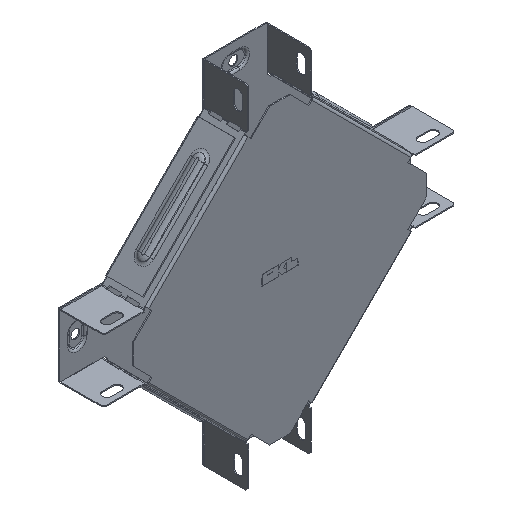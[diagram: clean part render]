
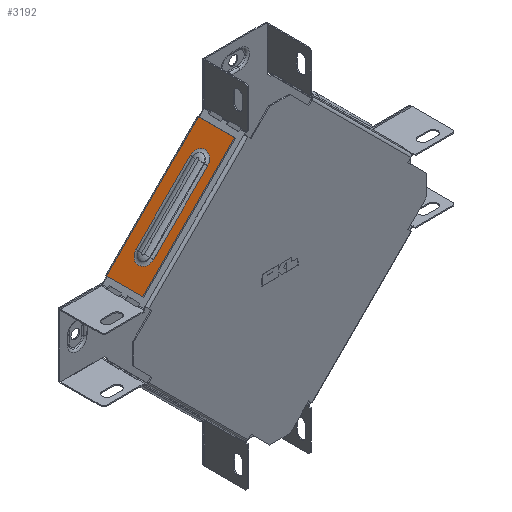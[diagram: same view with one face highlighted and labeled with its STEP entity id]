
A CAD part, isometric view. The second image highlights one B-rep face of the part: STEP entity #3192.
In plain terms, the highlighted planar face has unit normal (-0.707, 0, 0.707).
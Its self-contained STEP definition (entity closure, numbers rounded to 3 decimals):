
#496 = ORIENTED_EDGE ( 'NONE', *, *, #18158, .F. ) ;
#592 = DIRECTION ( 'NONE',  ( 0.707, 0., -0.707 ) ) ;
#917 = CARTESIAN_POINT ( 'NONE',  ( -29.667, 33.2, 101.51 ) ) ;
#1303 = ORIENTED_EDGE ( 'NONE', *, *, #19844, .T. ) ;
#1314 = CARTESIAN_POINT ( 'NONE',  ( -101.51, 5., 29.667 ) ) ;
#2027 = CARTESIAN_POINT ( 'NONE',  ( -44.375, 11.183, 86.802 ) ) ;
#3192 = ADVANCED_FACE ( 'NONE', ( #16011, #5654 ), #21611, .F. ) ;
#3672 = CARTESIAN_POINT ( 'NONE',  ( -44.375, 11.183, 86.802 ) ) ;
#3876 = CARTESIAN_POINT ( 'NONE',  ( -44.375, 25.017, 86.802 ) ) ;
#4049 = EDGE_LOOP ( 'NONE', ( #1303, #20644, #5790, #496 ) ) ;
#5048 = EDGE_CURVE ( 'NONE', #19356, #7307, #6885, .T. ) ;
#5231 = EDGE_CURVE ( 'NONE', #17566, #12940, #9934, .T. ) ;
#5412 = EDGE_CURVE ( 'NONE', #17996, #14526, #15245, .T. ) ;
#5654 = FACE_OUTER_BOUND ( 'NONE', #4049, .T. ) ;
#5790 = ORIENTED_EDGE ( 'NONE', *, *, #18222, .T. ) ;
#6408 = CARTESIAN_POINT ( 'NONE',  ( -101.51, 36.099, 29.667 ) ) ;
#6416 = LINE ( 'NONE', #22500, #10879 ) ;
#6600 = LINE ( 'NONE', #2027, #21124 ) ;
#6885 = CIRCLE ( 'NONE', #22083, 6.917 ) ;
#7149 = VECTOR ( 'NONE', #19079, 1000. ) ;
#7307 = VERTEX_POINT ( 'NONE', #17786 ) ;
#7739 = LINE ( 'NONE', #6408, #18368 ) ;
#8102 = LINE ( 'NONE', #15009, #21522 ) ;
#8894 = LINE ( 'NONE', #3876, #18118 ) ;
#9190 = AXIS2_PLACEMENT_3D ( 'NONE', #22151, #21688, #16769 ) ;
#9492 = VERTEX_POINT ( 'NONE', #20686 ) ;
#9934 = CIRCLE ( 'NONE', #15218, 6.917 ) ;
#10599 = DIRECTION ( 'NONE',  ( 0.5, 0.707, 0.5 ) ) ;
#10879 = VECTOR ( 'NONE', #22571, 1000. ) ;
#11935 = CARTESIAN_POINT ( 'NONE',  ( -29.667, 5., 101.51 ) ) ;
#12643 = CARTESIAN_POINT ( 'NONE',  ( -44.375, 25.017, 86.802 ) ) ;
#12882 = ORIENTED_EDGE ( 'NONE', *, *, #19084, .T. ) ;
#12940 = VERTEX_POINT ( 'NONE', #3672 ) ;
#13092 = DIRECTION ( 'NONE',  ( 0.5, 0.707, 0.5 ) ) ;
#13365 = DIRECTION ( 'NONE',  ( 0.707, 0., 0.707 ) ) ;
#13932 = ORIENTED_EDGE ( 'NONE', *, *, #5048, .T. ) ;
#14526 = VERTEX_POINT ( 'NONE', #11935 ) ;
#14992 = VERTEX_POINT ( 'NONE', #917 ) ;
#15009 = CARTESIAN_POINT ( 'NONE',  ( -26.838, 33.2, 104.338 ) ) ;
#15218 = AXIS2_PLACEMENT_3D ( 'NONE', #16764, #592, #13092 ) ;
#15245 = LINE ( 'NONE', #15651, #7149 ) ;
#15505 = ORIENTED_EDGE ( 'NONE', *, *, #5231, .T. ) ;
#15651 = CARTESIAN_POINT ( 'NONE',  ( -65.588, 5., 65.588 ) ) ;
#16011 = FACE_BOUND ( 'NONE', #19752, .T. ) ;
#16466 = DIRECTION ( 'NONE',  ( -0.707, 0., -0.707 ) ) ;
#16764 = CARTESIAN_POINT ( 'NONE',  ( -44.375, 18.1, 86.802 ) ) ;
#16769 = DIRECTION ( 'NONE',  ( -0.707, 0., -0.707 ) ) ;
#17438 = CARTESIAN_POINT ( 'NONE',  ( -86.802, 11.183, 44.375 ) ) ;
#17557 = EDGE_CURVE ( 'NONE', #12940, #19356, #6600, .T. ) ;
#17566 = VERTEX_POINT ( 'NONE', #12643 ) ;
#17786 = CARTESIAN_POINT ( 'NONE',  ( -86.802, 25.017, 44.375 ) ) ;
#17996 = VERTEX_POINT ( 'NONE', #1314 ) ;
#18118 = VECTOR ( 'NONE', #22062, 1000. ) ;
#18158 = EDGE_CURVE ( 'NONE', #9492, #14992, #8102, .T. ) ;
#18222 = EDGE_CURVE ( 'NONE', #14526, #14992, #6416, .T. ) ;
#18368 = VECTOR ( 'NONE', #22272, 1000. ) ;
#19079 = DIRECTION ( 'NONE',  ( 0.707, 0., 0.707 ) ) ;
#19084 = EDGE_CURVE ( 'NONE', #7307, #17566, #8894, .T. ) ;
#19356 = VERTEX_POINT ( 'NONE', #17438 ) ;
#19370 = CARTESIAN_POINT ( 'NONE',  ( -86.802, 18.1, 44.375 ) ) ;
#19752 = EDGE_LOOP ( 'NONE', ( #12882, #15505, #21494, #13932 ) ) ;
#19844 = EDGE_CURVE ( 'NONE', #9492, #17996, #7739, .T. ) ;
#20644 = ORIENTED_EDGE ( 'NONE', *, *, #5412, .T. ) ;
#20686 = CARTESIAN_POINT ( 'NONE',  ( -101.51, 33.2, 29.667 ) ) ;
#21124 = VECTOR ( 'NONE', #16466, 1000. ) ;
#21494 = ORIENTED_EDGE ( 'NONE', *, *, #17557, .T. ) ;
#21522 = VECTOR ( 'NONE', #13365, 1000. ) ;
#21611 = PLANE ( 'NONE',  #9190 ) ;
#21688 = DIRECTION ( 'NONE',  ( 0.707, 0., -0.707 ) ) ;
#22062 = DIRECTION ( 'NONE',  ( 0.707, 0., 0.707 ) ) ;
#22083 = AXIS2_PLACEMENT_3D ( 'NONE', #19370, #22893, #10599 ) ;
#22151 = CARTESIAN_POINT ( 'NONE',  ( -65.588, 35., 65.588 ) ) ;
#22272 = DIRECTION ( 'NONE',  ( 0., -1., 0. ) ) ;
#22500 = CARTESIAN_POINT ( 'NONE',  ( -29.667, 35., 101.51 ) ) ;
#22571 = DIRECTION ( 'NONE',  ( 0., 1., 0. ) ) ;
#22893 = DIRECTION ( 'NONE',  ( 0.707, 0., -0.707 ) ) ;
